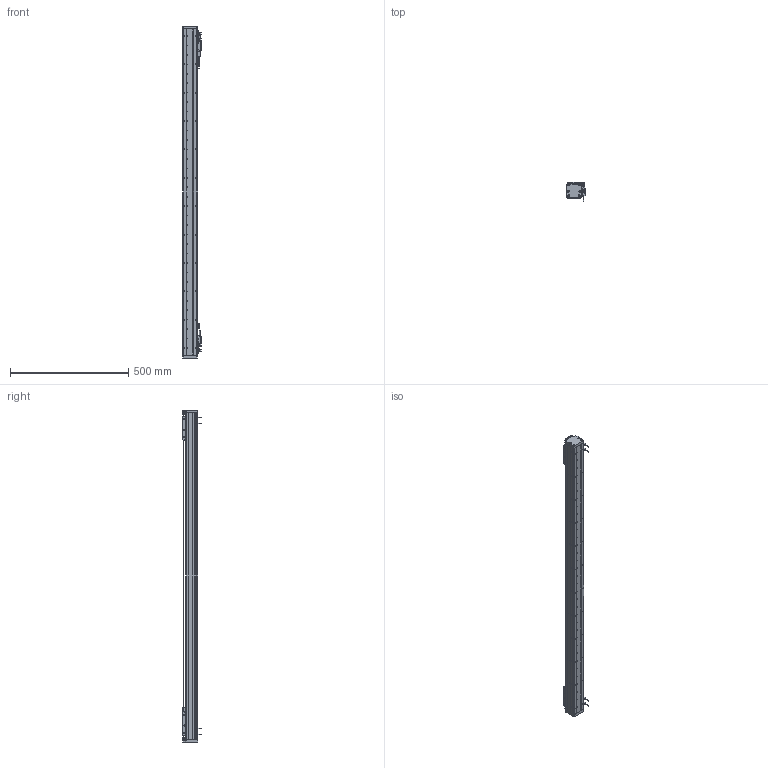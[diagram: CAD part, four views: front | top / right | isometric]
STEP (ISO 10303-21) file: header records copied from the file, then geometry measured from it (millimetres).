
FILE_DESCRIPTION (( 'STEP AP203' ), '1' );
FILE_NAME ('DA-A60-2-B1-T1140-C010-0.2 眻盄萇儂.STEP', '2025-08-13T01:26:05', ( '' ), ( '' ), 'SwSTEP 2.0', 'SolidWorks 2019', '' );
FILE_SCHEMA (( 'CONFIG_CONTROL_DESIGN' ));
Length unit declared in the file: millimetre
Products named in the file (30): DA-A60-2-B1-T1140-C010-0.2 眻盄萇儂; 葩璃 DA60-HK-DP-01 結え^AU60-V 幗紩賑怢; IU-AU60-L-00 菁釱(1380); 葩璃 XD-U-02  棠掑喜^DA-A60-2-B1-T60-C010-0.2-N; 13679-0000-005-00 詩湍嶺輸; 葩璃 DA60-DMT-DTJ-00 黍杅芛盓殤^DA-A60-2-B1-T60-C010-0.2-N; 复件 DA60-GT-T-00 底座钢轨^AU60-L 底座导轨; 葩璃 鞠褒情蹟譫 M3^DA-A60-2-B1-T60-C010-0.2-N(GB_FASTENER_NUT_STNAB M3-C); 复件 DA60-B1-GT-00 滑块钢轨^DA60-YT-B1-HT-B-01 一体化滑动台板; DA60-B1-HT-B-03 賑雄怢啣; ｸｴｼ DA60-DMT-DTJ-ZJ-00 ﾖﾐｼ荼ﾁﾊﾍｷﾖｧｼﾜ^DA-A60-2-B1-T60-C010-0.2-N; 葩璃 PM-T45^DA-A60-2-B1-T60-C010-0.2-N; 葩璃 DMT-010 1米m 0.2M^DA-A60-2-B1-T60-C010-0.2-N; DA-A60-GD-1020-00 钢带盖板(默认); 葩璃 AKM01-W030-TRL^DA-A60-2-B1-T60-C010-0.2-N; AU60-V 幗紩賑怢-1; AU60-L 菁釱絳寢; DA60嶺詩湍郪璃-T1060; AU60-V 幗紩賑怢; 复件 纯铜油杯 6x6mm^AU60-V 滚珠滑台; DA60-XJ-00 砎蝶結輸; 13679-0000-004-00 傷啣; DA60-YT-B1-HT-B-01 珨极趙賑雄怢啣; ｸｴｼ BAKM01-W030-C1-TP-0.2 ﾖｱﾏﾟｵ扈巐ｯﾗﾓ^DA-A60-2-B1-T60-C010-0.2-N; ｸｴｼ DA60-GYP-ZJ-01 ﾖﾐｼ荵箏邵ﾐﾓｦﾆｬ^DA-A60-2-B1-T60-C010-0.2-N(ﾄｬﾈﾏ); 13679-0000-006-00  钢带压块(默认); DA60-YT-B1-HT-B-01 珨极趙賑雄怢啣-1; 复件 DA60-HC-XJ-01 中间缓冲橡胶^DA-A60-2-B1-T60-C010-0.2-N; ｸｴｼ DA-A60-GYP-DMT-00 ｹ箏邵ﾐﾓｦﾆｬ^DA-A60-2-B1-T60-C010-0.2-N(ﾄｬﾈﾏ); 葩璃 PM-Y65^DA-A60-2-B1-T60-C010-0.2-N
Assembly tree (56 placements, depth 4):
  DA-A60-2-B1-T1140-C010-0.2 眻盄萇儂
    AU60-L 菁釱絳寢
      IU-AU60-L-00 菁釱(1380)
      复件 DA60-GT-T-00 底座钢轨^AU60-L 底座导轨  x2
    AU60-V 幗紩賑怢
      DA60-YT-B1-HT-B-01 珨极趙賑雄怢啣
        DA60-B1-HT-B-03 賑雄怢啣
        复件 DA60-B1-GT-00 滑块钢轨^DA60-YT-B1-HT-B-01 一体化滑动台板  x2
      葩璃 DA60-HK-DP-01 結え^AU60-V 幗紩賑怢  x2
      复件 纯铜油杯 6x6mm^AU60-V 滚珠滑台
    AU60-V 幗紩賑怢-1
      DA60-YT-B1-HT-B-01 珨极趙賑雄怢啣-1
        DA60-B1-HT-B-03 賑雄怢啣
        复件 DA60-B1-GT-00 滑块钢轨^DA60-YT-B1-HT-B-01 一体化滑动台板  x2
      葩璃 DA60-HK-DP-01 結え^AU60-V 幗紩賑怢  x2
      复件 纯铜油杯 6x6mm^AU60-V 滚珠滑台
    DA60嶺詩湍郪璃-T1060
      13679-0000-006-00  钢带压块(默认)  x2
      DA-A60-GD-1020-00 钢带盖板(默认)
      13679-0000-004-00 傷啣  x2
      DA60-XJ-00 砎蝶結輸  x2
      13679-0000-005-00 詩湍嶺輸  x2
    ｸｴｼ DA60-DMT-DTJ-ZJ-00 ﾖﾐｼ荼ﾁﾊﾍｷﾖｧｼﾜ^DA-A60-2-B1-T60-C010-0.2-N
    葩璃 PM-Y65^DA-A60-2-B1-T60-C010-0.2-N
    复件 DA60-HC-XJ-01 中间缓冲橡胶^DA-A60-2-B1-T60-C010-0.2-N  x2
    ｸｴｼ DA60-GYP-ZJ-01 ﾖﾐｼ荵箏邵ﾐﾓｦﾆｬ^DA-A60-2-B1-T60-C010-0.2-N(ﾄｬﾈﾏ)
    ｸｴｼ DA-A60-GYP-DMT-00 ｹ箏邵ﾐﾓｦﾆｬ^DA-A60-2-B1-T60-C010-0.2-N(ﾄｬﾈﾏ)  x2
    葩璃 DA60-DMT-DTJ-00 黍杅芛盓殤^DA-A60-2-B1-T60-C010-0.2-N
    葩璃 DMT-010 1米m 0.2M^DA-A60-2-B1-T60-C010-0.2-N  x2
    ｸｴｼ BAKM01-W030-C1-TP-0.2 ﾖｱﾏﾟｵ扈巐ｯﾗﾓ^DA-A60-2-B1-T60-C010-0.2-N  x2
    葩璃 AKM01-W030-TRL^DA-A60-2-B1-T60-C010-0.2-N
    葩璃 PM-T45^DA-A60-2-B1-T60-C010-0.2-N  x4
    葩璃 XD-U-02  棠掑喜^DA-A60-2-B1-T60-C010-0.2-N
    葩璃 鞠褒情蹟譫 M3^DA-A60-2-B1-T60-C010-0.2-N(GB_FASTENER_NUT_STNAB M3-C)  x8
Bounding box: 76.95 x 80 x 1404 mm (x, y, z)
Volume: 2872745.2 mm3; surface area: 1035361.2 mm2
Topology: 61 solids, 65 shells, 3172 faces, 8659 edges, 5514 vertices
Faces by surface type: plane 1546, cylinder 1314, cone 280, bspline 22, torus 8, sphere 2
Entity records: 79428 total; most frequent: CARTESIAN_POINT 18588, ORIENTED_EDGE 12164, DIRECTION 11540, EDGE_CURVE 6082, VERTEX_POINT 3960, AXIS2_PLACEMENT_3D 3949, LINE 3642, VECTOR 3642
